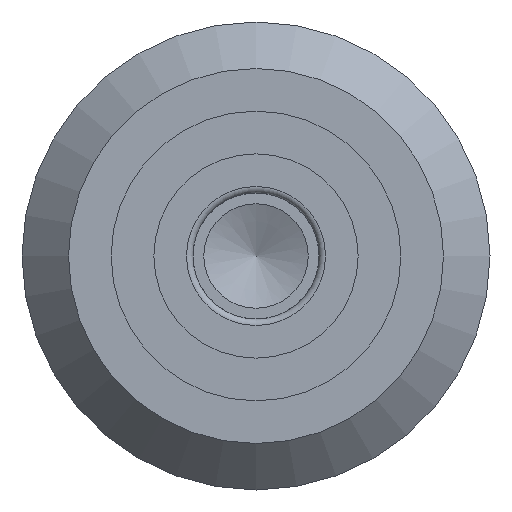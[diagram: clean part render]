
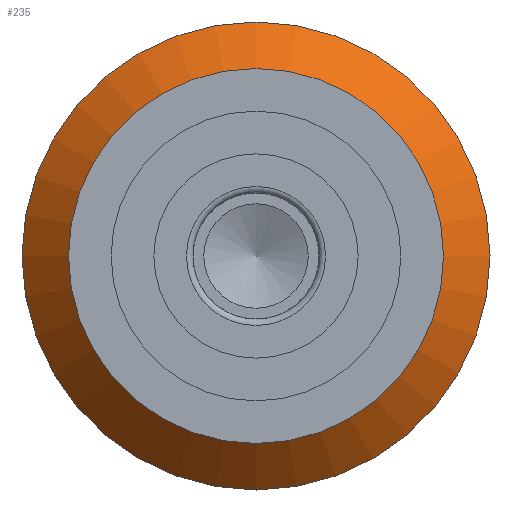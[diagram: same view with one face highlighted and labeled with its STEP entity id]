
A CAD part, left-side view. The second image highlights one B-rep face of the part: STEP entity #235.
In plain terms, the highlighted conical face has half-angle 45 degrees and reference radius 7.417 mm.
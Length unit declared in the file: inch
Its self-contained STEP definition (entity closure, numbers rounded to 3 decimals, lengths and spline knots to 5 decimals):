
#235 = ADVANCED_FACE( '', ( #491, #492 ), #493, .T. );
#491 = FACE_BOUND( '', #754, .T. );
#492 = FACE_OUTER_BOUND( '', #755, .T. );
#493 = CONICAL_SURFACE( '', #756, 0.292, 0.785 );
#754 = EDGE_LOOP( '', ( #1154 ) );
#755 = EDGE_LOOP( '', ( #1155 ) );
#756 = AXIS2_PLACEMENT_3D( '', #1156, #1157, #1158 );
#1154 = ORIENTED_EDGE( '', *, *, #1306, .T. );
#1155 = ORIENTED_EDGE( '', *, *, #1352, .F. );
#1156 = CARTESIAN_POINT( '', ( -0.067, 0., 0. ) );
#1157 = DIRECTION( '', ( 1., 0., 0. ) );
#1158 = DIRECTION( '', ( 0., 0., -1. ) );
#1306 = EDGE_CURVE( '', #1491, #1491, #1492, .T. );
#1352 = EDGE_CURVE( '', #1560, #1560, #1561, .T. );
#1491 = VERTEX_POINT( '', #1781 );
#1492 = CIRCLE( '', #1782, 0.234 );
#1560 = VERTEX_POINT( '', #1879 );
#1561 = CIRCLE( '', #1880, 0.292 );
#1781 = CARTESIAN_POINT( '', ( -0.125, 0., -0.234 ) );
#1782 = AXIS2_PLACEMENT_3D( '', #2049, #2050, #2051 );
#1879 = CARTESIAN_POINT( '', ( -0.067, 0., -0.292 ) );
#1880 = AXIS2_PLACEMENT_3D( '', #2120, #2121, #2122 );
#2049 = CARTESIAN_POINT( '', ( -0.125, 0., 0. ) );
#2050 = DIRECTION( '', ( 1., 0., 0. ) );
#2051 = DIRECTION( '', ( 0., 0., -1. ) );
#2120 = CARTESIAN_POINT( '', ( -0.067, 0., 0. ) );
#2121 = DIRECTION( '', ( 1., 0., 0. ) );
#2122 = DIRECTION( '', ( 0., 0., -1. ) );
